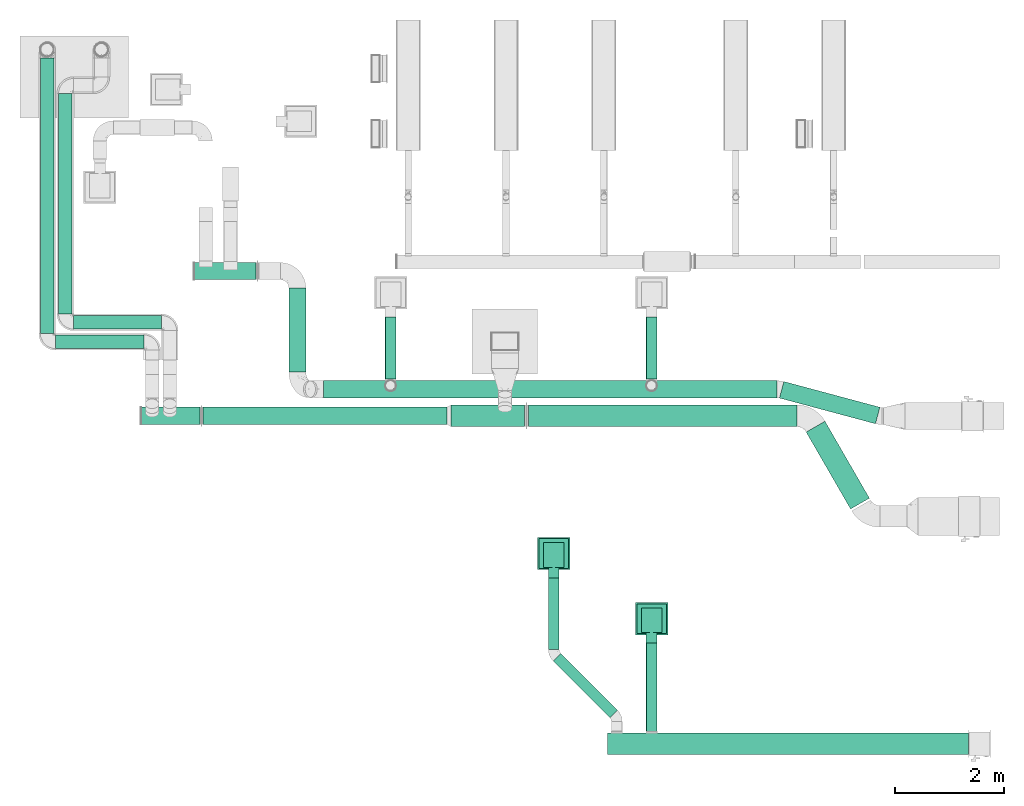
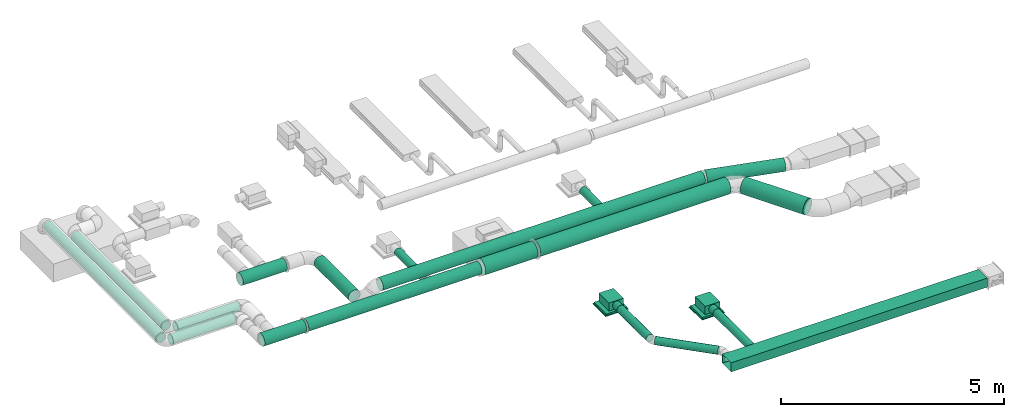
# One storey, part 5 of 36: 19 flow segments, 2 flow terminals.
"""IFC2X3 building model written with IfcOpenShell, lengths in millimetres."""

from ifc_helpers import new_model, entity, si_unit, converted_unit, derived_unit, direction, frame, origin_with_axes, origin_2d_with_axis, place, context, subcontext, project, spatial, hollow_rectangle, hollow_circle, extrude, open_shell, surface_model, source, transform, mapped, type_object, element, save


model = new_model("IFC2X3")

# Units and contexts
model_context = context("Model", 3, precision=0.01, world=frame((0.0, 4.29681676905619e-09, 0.0)), true_north=direction((4.01073788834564e-13, 1.0)))
plan_context = context("Plan", 3, precision=0.01, world=frame((0.0, 4.29681676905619e-09, 0.0)), true_north=direction((4.01073788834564e-13, 1.0)))
body_context = subcontext(model_context, "Body", "Model", "MODEL_VIEW")
ifc_project = project(units=[converted_unit("PLANEANGLEUNIT", "DEGREE", entity("IfcPositiveLengthMeasure", 0.0174532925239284), si_unit("PLANEANGLEUNIT", "RADIAN"), dimensions=[0, 0, 0, 0, 0, 0, 0]), si_unit("AREAUNIT", "SQUARE_METRE"), si_unit("LENGTHUNIT", "METRE", prefix="MILLI"), si_unit("MASSUNIT", "GRAM", prefix="KILO"), si_unit("POWERUNIT", "WATT"), si_unit("PRESSUREUNIT", "PASCAL"), si_unit("FORCEUNIT", "NEWTON", prefix="KILO"), si_unit("ELECTRICCURRENTUNIT", "AMPERE"), si_unit("THERMODYNAMICTEMPERATUREUNIT", "DEGREE_CELSIUS"), si_unit("TIMEUNIT", "SECOND"), si_unit("VOLUMEUNIT", "CUBIC_METRE"), derived_unit("LINEARVELOCITYUNIT", [(si_unit("LENGTHUNIT", "METRE"), 1), (si_unit("TIMEUNIT", "SECOND"), -1)]), derived_unit("VOLUMETRICFLOWRATEUNIT", [(si_unit("VOLUMEUNIT", "CUBIC_METRE"), 1), (si_unit("TIMEUNIT", "SECOND"), -1)]), derived_unit("THERMALTRANSMITTANCEUNIT", [(si_unit("POWERUNIT", "WATT"), 1), (si_unit("THERMODYNAMICTEMPERATUREUNIT", "KELVIN"), -1), (si_unit("AREAUNIT", "SQUARE_METRE"), -1)])], contexts=[model_context, plan_context])

# Site, building, storey
site_placement = place(None, frame((0.0, -4.29681676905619e-09, 0.0), z_axis=(0.0, 0.0, 1.0), x_axis=(1.0, 0.0, 0.0)))
site = spatial("IfcSite", under=ifc_project, at=site_placement, CompositionType="ELEMENT")
building_placement = place(site_placement, frame((0.0, 4.29681676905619e-09, 0.0), z_axis=(0.0, 0.0, 1.0), x_axis=(1.0, 0.0, 0.0)))
building = spatial("IfcBuilding", under=site, at=building_placement, Name="mc-building", CompositionType="ELEMENT")
storey_placement = place(building_placement, frame((0.0, 0.0, 204000.0), z_axis=(0.0, 0.0, 1.0), x_axis=(1.0, 0.0, 0.0)))
storey = spatial("IfcBuildingStorey", under=building, at=storey_placement, Name="Nivå D", CompositionType="ELEMENT", Elevation=204000.0)

# Flow segments
duct_segment_type_1 = type_object("IfcDuctSegmentType", Name="KK002T - Rektangulære, Forsinket stål", PredefinedType="RIGIDSEGMENT")
shared_shape_1 = source(origin_with_axes(), body_context, "Body", "SweptSolid", [
    extrude(hollow_rectangle(XDim=400.0, YDim=250.0, WallThickness=2.0, at=origin_2d_with_axis()), frame((0.0, 0.0, 0.0), z_axis=(1.0, 0.0, 0.0), x_axis=(0.0, 1.0, 0.0)), (0.0, 0.0, 1.0), 6645.0),
])
flow_segment_1_placement = place(storey_placement, frame((531529.91713, 407700.00468, 2890.82430000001), z_axis=(0.0, 0.0, 1.0), x_axis=(-1.0, 0.0, 0.0)))
element("IfcFlowSegment", 1, at=flow_segment_1_placement, inside=storey, type_object=duct_segment_type_1, Name="KK002T - Rektangulære, Forsinket stål", context=body_context, shape_type="MappedRepresentation", body=[
    mapped(shared_shape_1, transform((0.0, 0.0, 0.0), scale=1.0)),
])
duct_segment_type_2 = type_object("IfcDuctSegmentType", Name="KK001T - Spiro kanaler, Forsinket stål", PredefinedType="RIGIDSEGMENT")
shared_shape_2 = source(origin_with_axes(), body_context, "Body", "SweptSolid", [
    extrude(hollow_circle(Radius=100.0, WallThickness=2.0, at=origin_2d_with_axis()), frame((0.0, 0.0, 0.0), z_axis=(1.0, 0.0, 0.0), x_axis=(0.0, 1.0, 0.0)), (0.0, 0.0, 1.0), 1625.3),
])
flow_segment_2_placement = place(storey_placement, frame((525696.54715, 409550.35076, 2868.32430000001), z_axis=(0.0, 0.0, 1.0), x_axis=(0.0, -1.0, 0.0)))
element("IfcFlowSegment", 2, at=flow_segment_2_placement, inside=storey, type_object=duct_segment_type_2, Name="KK001T - Spiro kanaler, Forsinket stål", context=body_context, shape_type="MappedRepresentation", body=[
    mapped(shared_shape_2, transform((0.0, 0.0, 0.0), scale=1.0)),
])
shared_shape_3 = source(origin_with_axes(), body_context, "Body", "SweptSolid", [
    extrude(hollow_circle(Radius=100.0, WallThickness=2.0, at=origin_2d_with_axis()), frame((0.0, 0.0, 0.0), z_axis=(1.0, 0.0, 0.0), x_axis=(0.0, 1.0, 0.0)), (0.0, 0.0, 1.0), 1317.2),
])
flow_segment_3_placement = place(storey_placement, frame((523896.54715, 410750.35076, 2868.32430000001), z_axis=(0.0, 0.0, 1.0), x_axis=(0.0, -1.0, 0.0)))
element("IfcFlowSegment", 3, at=flow_segment_3_placement, inside=storey, type_object=duct_segment_type_2, Name="KK001T - Spiro kanaler, Forsinket stål", context=body_context, shape_type="MappedRepresentation", body=[
    mapped(shared_shape_3, transform((0.0, 0.0, 0.0), scale=1.0)),
])
shared_shape_4 = source(origin_with_axes(), body_context, "Body", "SweptSolid", [
    extrude(hollow_circle(Radius=100.0, WallThickness=2.0, at=origin_2d_with_axis()), frame((0.0, 0.0, 0.0), z_axis=(1.0, 0.0, 0.0), x_axis=(0.0, 1.0, 0.0)), (0.0, 0.0, 1.0), 1475.7),
])
flow_segment_4_placement = place(storey_placement, frame((523955.1258, 409291.77211, 2868.32430000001), z_axis=(0.0, 0.0, 1.0), x_axis=(0.707106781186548, -0.707106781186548, 0.0)))
element("IfcFlowSegment", 4, at=flow_segment_4_placement, inside=storey, type_object=duct_segment_type_2, Name="KK001T - Spiro kanaler, Forsinket stål", context=body_context, shape_type="MappedRepresentation", body=[
    mapped(shared_shape_4, transform((0.0, 0.0, 0.0), scale=1.0)),
])
shared_shape_5 = source(origin_with_axes(), body_context, "Body", "SweptSolid", [
    extrude(hollow_circle(Radius=157.5, WallThickness=2.0, at=origin_2d_with_axis()), frame((0.0, 0.0, 0.0), z_axis=(1.0, 0.0, 0.0), x_axis=(0.0, 1.0, 0.0)), (0.0, 0.0, 1.0), 8350.8),
])
flow_segment_5_placement = place(storey_placement, frame((528007.74637, 414221.8494, 2930.0), z_axis=(0.0, 0.0, 1.0), x_axis=(-1.0, 0.0, 0.0)))
element("IfcFlowSegment", 5, at=flow_segment_5_placement, inside=storey, type_object=duct_segment_type_2, Name="KK001T - Spiro kanaler, Forsinket stål", context=body_context, shape_type="MappedRepresentation", body=[
    mapped(shared_shape_5, transform((0.0, 0.0, 0.0), scale=1.0)),
])
shared_shape_6 = source(origin_with_axes(), body_context, "Body", "SweptSolid", [
    extrude(hollow_circle(Radius=200.0, WallThickness=2.0, at=origin_2d_with_axis()), frame((0.0, 0.0, 0.0), z_axis=(1.0, 0.0, 0.0), x_axis=(0.0, 1.0, 0.0)), (0.0, 0.0, 1.0), 4936.7),
])
flow_segment_6_placement = place(storey_placement, frame((523430.46426, 413732.76875, 2877.5), z_axis=(0.0, 0.0, 1.0), x_axis=(1.0, 0.0, 0.0)))
element("IfcFlowSegment", 6, at=flow_segment_6_placement, inside=storey, type_object=duct_segment_type_2, Name="KK001T - Spiro kanaler, Forsinket stål", context=body_context, shape_type="MappedRepresentation", body=[
    mapped(shared_shape_6, transform((0.0, 0.0, 0.0), scale=1.0)),
])
shared_shape_7 = source(origin_with_axes(), body_context, "Body", "SweptSolid", [
    extrude(hollow_circle(Radius=157.5, WallThickness=2.0, at=origin_2d_with_axis()), frame((0.0, 0.0, 0.0), z_axis=(1.0, 0.0, 0.0), x_axis=(0.0, 1.0, 0.0)), (0.0, 0.0, 1.0), 1829.0),
])
flow_segment_7_placement = place(storey_placement, frame((528089.27437, 414211.11604, 2930.0), z_axis=(0.0, 0.0, 1.0), x_axis=(0.965925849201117, -0.258818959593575, 0.0)))
element("IfcFlowSegment", 7, at=flow_segment_7_placement, inside=storey, type_object=duct_segment_type_2, Name="KK001T - Spiro kanaler, Forsinket stål", context=body_context, shape_type="MappedRepresentation", body=[
    mapped(shared_shape_7, transform((0.0, 0.0, 0.0), scale=1.0)),
])
shared_shape_8 = source(origin_with_axes(), body_context, "Body", "SweptSolid", [
    extrude(hollow_circle(Radius=100.0, WallThickness=2.0, at=origin_2d_with_axis()), frame((0.0, 0.0, 0.0), z_axis=(1.0, 0.0, 0.0), x_axis=(0.0, 1.0, 0.0)), (0.0, 0.0, 1.0), 1143.5),
])
for number, where, z_axis, x_axis in (
    (8, (520896.54715, 415550.35076, 2580.0), (0.0, 0.0, 1.0), (0.0, -1.0, 0.0)),
    (9, (525696.54715, 415550.35076, 2580.0), (0.0, 0.0, 1.0), (0.0, -1.0, 0.0)),
):
    element("IfcFlowSegment", number, at=place(storey_placement, frame(where, z_axis=z_axis, x_axis=x_axis)), inside=storey, type_object=duct_segment_type_2, Name="KK001T - Spiro kanaler, Forsinket stål", context=body_context, shape_type="MappedRepresentation", body=[
        mapped(shared_shape_8, transform((0.0, 0.0, 0.0), scale=1.0)),
    ])
shared_shape_9 = source(origin_with_axes(), body_context, "Body", "SweptSolid", [
    extrude(hollow_circle(Radius=200.0, WallThickness=2.0, at=origin_2d_with_axis()), frame((0.0, 0.0, 0.0), z_axis=(1.0, 0.0, 0.0), x_axis=(0.0, 1.0, 0.0)), (0.0, 0.0, 1.0), 1634.3),
])
flow_segment_8_placement = place(storey_placement, frame((529530.73245, 412117.40977, 2877.5), z_axis=(0.0, 0.0, 1.0), x_axis=(-0.500000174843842, 0.866025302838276, 0.0)))
element("IfcFlowSegment", 10, at=flow_segment_8_placement, inside=storey, type_object=duct_segment_type_2, Name="KK001T - Spiro kanaler, Forsinket stål", context=body_context, shape_type="MappedRepresentation", body=[
    mapped(shared_shape_9, transform((0.0, 0.0, 0.0), scale=1.0)),
])
shared_shape_10 = source(origin_with_axes(), body_context, "Body", "SweptSolid", [
    extrude(hollow_circle(Radius=157.5, WallThickness=2.0, at=origin_2d_with_axis()), frame((0.0, 0.0, 0.0), z_axis=(1.0, 0.0, 0.0), x_axis=(0.0, 1.0, 0.0)), (0.0, 0.0, 1.0), 1542.8),
])
flow_segment_9_placement = place(storey_placement, frame((519180.55848, 416079.68824, 2584.12929000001), z_axis=(0.0, 0.0, 1.0), x_axis=(0.0, -1.0, 0.0)))
element("IfcFlowSegment", 11, at=flow_segment_9_placement, inside=storey, type_object=duct_segment_type_2, Name="KK001T - Spiro kanaler, Forsinket stål", context=body_context, shape_type="MappedRepresentation", body=[
    mapped(shared_shape_10, transform((0.0, 0.0, 0.0), scale=1.0)),
])
shared_shape_11 = source(origin_with_axes(), body_context, "Body", "SweptSolid", [
    extrude(hollow_circle(Radius=157.5, WallThickness=2.0, at=origin_2d_with_axis()), frame((0.0, 0.0, 0.0), z_axis=(1.0, 0.0, 0.0), x_axis=(0.0, 1.0, 0.0)), (0.0, 0.0, 1.0), 1141.9),
])
flow_segment_10_placement = place(storey_placement, frame((518422.5, 416394.68824, 2584.12929000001), z_axis=(0.0, 0.0, 1.0), x_axis=(-1.0, 0.0, 0.0)))
element("IfcFlowSegment", 12, at=flow_segment_10_placement, inside=storey, type_object=duct_segment_type_2, Name="KK001T - Spiro kanaler, Forsinket stål", context=body_context, shape_type="MappedRepresentation", body=[
    mapped(shared_shape_11, transform((0.0, 0.0, 0.0), scale=1.0)),
])
duct_segment_type_3 = type_object("IfcDuctSegmentType", Name="KK002T - Spiro kanaler, Forsinket stål, korte bend", PredefinedType="RIGIDSEGMENT")
shared_shape_12 = source(origin_with_axes(), body_context, "Body", "SweptSolid", [
    extrude(hollow_circle(Radius=125.0, WallThickness=2.0, at=origin_2d_with_axis()), frame((0.0, 0.0, 0.0), z_axis=(1.0, 0.0, 0.0), x_axis=(0.0, 1.0, 0.0)), (0.0, 0.0, 1.0), 1630.2),
])
flow_segment_11_placement = place(storey_placement, frame((516357.72088, 415095.0, 2614.0), z_axis=(0.0, 0.0, 1.0), x_axis=(-1.0, 0.0, 0.0)))
element("IfcFlowSegment", 13, at=flow_segment_11_placement, inside=storey, type_object=duct_segment_type_3, Name="KK002T - Spiro kanaler, Forsinket stål, korte bend", context=body_context, shape_type="MappedRepresentation", body=[
    mapped(shared_shape_12, transform((0.0, 0.0, 0.0), scale=1.0)),
])
shared_shape_13 = source(origin_with_axes(), body_context, "Body", "SweptSolid", [
    extrude(hollow_circle(Radius=125.0, WallThickness=2.0, at=origin_2d_with_axis()), frame((0.0, 0.0, 0.0), z_axis=(1.0, 0.0, 0.0), x_axis=(0.0, 1.0, 0.0)), (0.0, 0.0, 1.0), 1620.0),
])
flow_segment_12_placement = place(storey_placement, frame((516682.18938, 415452.77189, 2614.0), z_axis=(0.0, 0.0, 1.0), x_axis=(-1.0, 0.0, 0.0)))
element("IfcFlowSegment", 14, at=flow_segment_12_placement, inside=storey, type_object=duct_segment_type_3, Name="KK002T - Spiro kanaler, Forsinket stål, korte bend", context=body_context, shape_type="MappedRepresentation", body=[
    mapped(shared_shape_13, transform((0.0, 0.0, 0.0), scale=1.0)),
])
shared_shape_14 = source(origin_with_axes(), body_context, "Body", "SweptSolid", [
    extrude(hollow_circle(Radius=125.0, WallThickness=2.0, at=origin_2d_with_axis()), frame((0.0, 0.0, 0.0), z_axis=(1.0, 0.0, 0.0), x_axis=(0.0, 1.0, 0.0)), (0.0, 0.0, 1.0), 4060.0),
])
flow_segment_13_placement = place(storey_placement, frame((514912.18938, 415602.77189, 2614.0), z_axis=(0.0, 0.0, 1.0), x_axis=(0.0, 1.0, 0.0)))
element("IfcFlowSegment", 15, at=flow_segment_13_placement, inside=storey, type_object=duct_segment_type_3, Name="KK002T - Spiro kanaler, Forsinket stål, korte bend", context=body_context, shape_type="MappedRepresentation", body=[
    mapped(shared_shape_14, transform((0.0, 0.0, 0.0), scale=1.0)),
])
shared_shape_15 = source(origin_with_axes(), body_context, "Body", "SweptSolid", [
    extrude(hollow_circle(Radius=125.0, WallThickness=2.0, at=origin_2d_with_axis()), frame((0.0, 0.0, 0.0), z_axis=(1.0, 0.0, 0.0), x_axis=(0.0, 1.0, 0.0)), (0.0, 0.0, 1.0), 5070.2),
])
flow_segment_14_placement = place(storey_placement, frame((514577.5, 420315.19145, 2614.0), z_axis=(0.0, 0.0, 1.0), x_axis=(0.0, -1.0, 0.0)))
element("IfcFlowSegment", 16, at=flow_segment_14_placement, inside=storey, type_object=duct_segment_type_3, Name="KK002T - Spiro kanaler, Forsinket stål, korte bend", context=body_context, shape_type="MappedRepresentation", body=[
    mapped(shared_shape_15, transform((0.0, 0.0, 0.0), scale=1.0)),
])
shared_shape_16 = source(origin_with_axes(), body_context, "Body", "SweptSolid", [
    extrude(hollow_circle(Radius=157.5, WallThickness=2.0, at=origin_2d_with_axis()), frame((0.0, 0.0, 0.0), z_axis=(1.0, 0.0, 0.0), x_axis=(0.0, 1.0, 0.0)), (0.0, 0.0, 1.0), 1083.2),
])
flow_segment_15_placement = place(storey_placement, frame((517387.96426, 413732.76875, 2877.5), z_axis=(0.0, 0.0, 1.0), x_axis=(-1.0, 0.0, 0.0)))
element("IfcFlowSegment", 17, at=flow_segment_15_placement, inside=storey, type_object=duct_segment_type_3, Name="KK002T - Spiro kanaler, Forsinket stål, korte bend", context=body_context, shape_type="MappedRepresentation", body=[
    mapped(shared_shape_16, transform((0.0, 0.0, 0.0), scale=1.0)),
])
shared_shape_17 = source(origin_with_axes(), body_context, "Body", "SweptSolid", [
    extrude(hollow_circle(Radius=157.5, WallThickness=2.0, at=origin_2d_with_axis()), frame((0.0, 0.0, 0.0), z_axis=(1.0, 0.0, 0.0), x_axis=(0.0, 1.0, 0.0)), (0.0, 0.0, 1.0), 4488.2),
])
flow_segment_16_placement = place(storey_placement, frame((521931.12399, 413732.76875, 2877.5), z_axis=(0.0, 0.0, 1.0), x_axis=(-1.0, 0.0, 0.0)))
element("IfcFlowSegment", 18, at=flow_segment_16_placement, inside=storey, type_object=duct_segment_type_3, Name="KK002T - Spiro kanaler, Forsinket stål, korte bend", context=body_context, shape_type="MappedRepresentation", body=[
    mapped(shared_shape_17, transform((0.0, 0.0, 0.0), scale=1.0)),
])
shared_shape_18 = source(origin_with_axes(), body_context, "Body", "SweptSolid", [
    extrude(hollow_circle(Radius=200.0, WallThickness=2.0, at=origin_2d_with_axis()), frame((0.0, 0.0, 0.0), z_axis=(1.0, 0.0, 0.0), x_axis=(0.0, 1.0, 0.0)), (0.0, 0.0, 1.0), 1355.7),
])
flow_segment_17_placement = place(storey_placement, frame((523360.46426, 413732.76875, 2877.5), z_axis=(0.0, 0.0, 1.0), x_axis=(-1.0, 0.0, 0.0)))
element("IfcFlowSegment", 19, at=flow_segment_17_placement, inside=storey, type_object=duct_segment_type_3, Name="KK002T - Spiro kanaler, Forsinket stål, korte bend", context=body_context, shape_type="MappedRepresentation", body=[
    mapped(shared_shape_18, transform((0.0, 0.0, 0.0), scale=1.0)),
])

# Flow terminals
air_terminal_type = type_object("IfcAirTerminalType", Name="Orion-LOV-TA-250+Luna-200-250", PredefinedType="NOTDEFINED")
shared_shape_19 = source(origin_with_axes(), body_context, "Body", "SurfaceModel", [
    surface_model("IfcShellBasedSurfaceModel", [(-253.99999, 189.99999, 309.0), (-253.99999, -189.99999, 309.0), (198.0, -189.99999, 309.0), (198.0, 189.99999, 309.0), (198.0, 189.99999, 87.0), (198.0, -189.99999, 87.0), (-253.99999, -189.99999, 87.0), (-253.99999, 189.99999, 87.0), (-272.49999, 272.49999, 44.0), (-272.49999, -272.49999, 44.0), (272.49999, -272.49999, 44.0), (272.49999, 272.49999, 44.0), (272.49999, 272.49999, 0.0), (272.49999, -272.49999, 0.0), (-272.49999, -272.49999, 0.0), (-272.49999, 272.49999, 0.0), (-297.49999, 297.49999, 0.0), (-297.49999, -297.49999, 0.0), (297.49999, -297.49999, 0.0), (297.49999, 297.49999, 0.0), (297.49999, 297.49999, -6.0), (297.49999, -297.49999, -6.0), (-297.49999, -297.49999, -6.0), (-297.49999, 297.49999, -6.0), (-253.99999, 50.0, 111.39746), (-253.99999, 70.71068, 127.28932), (-253.99999, 49.9, 111.57066), (-253.99999, 25.83014, 101.6006), (-253.99999, 0.0, 98.2), (-253.99999, 25.8819, 101.40742), (-253.99999, 0.0, 98.0), (-253.99999, 70.56926, 127.43074), (-253.99999, 96.59259, 172.11809), (-253.99999, 99.8, 198.0), (-253.99999, 96.39939, 172.16985), (-253.99999, 100.0, 198.0), (-253.99999, 86.60254, 148.0), (-253.99999, 86.42934, 148.1), (-253.99999, -25.83014, 101.6006), (-253.99999, -25.8819, 101.40742), (-253.99999, -49.9, 111.57066), (-253.99999, -70.71068, 127.28932), (-253.99999, -50.0, 111.39746), (-253.99999, -70.56926, 127.43074), (-253.99999, -86.42934, 148.1), (-253.99999, -86.60254, 148.0), (-253.99999, -96.39939, 172.16985), (-253.99999, -96.59259, 172.11809), (-253.99999, -99.8, 198.0), (-253.99999, -100.0, 198.0), (-253.99999, 96.59259, 223.8819), (-253.99999, 96.39939, 223.83014), (-253.99999, 86.42934, 247.9), (-253.99999, 86.60254, 248.0), (-253.99999, 70.56926, 268.56925), (-253.99999, 70.71068, 268.71067), (-253.99999, 50.0, 284.60254), (-253.99999, 49.9, 284.42933), (-253.99999, 25.83014, 294.3994), (-253.99999, 25.8819, 294.59257), (-253.99999, 0.0, 297.79999), (-253.99999, 0.0, 298.0), (-253.99999, -86.60254, 248.0), (-253.99999, -86.42934, 247.9), (-253.99999, -70.71068, 268.71067), (-253.99999, -70.56926, 268.56925), (-253.99999, -96.59259, 223.8819), (-253.99999, -96.39939, 223.83014), (-253.99999, -25.83014, 294.3994), (-253.99999, -25.8819, 294.59257), (-253.99999, -49.9, 284.42933), (-253.99999, -50.0, 284.60254), (-448.99999, 50.0, 284.60254), (-448.99999, 70.71068, 268.71067), (-448.99999, 49.9, 284.42933), (-448.99999, 25.83014, 294.3994), (-448.99999, 0.0, 297.79999), (-448.99999, 25.8819, 294.59257), (-448.99999, 0.0, 298.0), (-448.99999, 70.56926, 268.56925), (-448.99999, 96.59259, 223.8819), (-448.99999, 99.8, 198.0), (-448.99999, 96.39939, 223.83014), (-448.99999, 100.0, 198.0), (-448.99999, 86.60254, 248.0), (-448.99999, 86.42934, 247.9), (-448.99999, -25.83014, 294.3994), (-448.99999, -25.8819, 294.59257), (-448.99999, -49.9, 284.42933), (-448.99999, -70.71068, 268.71067), (-448.99999, -50.0, 284.60254), (-448.99999, -70.56926, 268.56925), (-448.99999, -86.42934, 247.9), (-448.99999, -86.60254, 248.0), (-448.99999, -96.39939, 223.83014), (-448.99999, -96.59259, 223.8819), (-448.99999, -99.8, 198.0), (-448.99999, -100.0, 198.0), (-448.99999, 96.59259, 172.11809), (-448.99999, 96.39939, 172.16985), (-448.99999, 86.42934, 148.1), (-448.99999, 86.60254, 148.0), (-448.99999, 70.56926, 127.43074), (-448.99999, 70.71068, 127.28932), (-448.99999, 50.0, 111.39746), (-448.99999, 49.9, 111.57066), (-448.99999, 25.83014, 101.6006), (-448.99999, 25.8819, 101.40742), (-448.99999, 0.0, 98.2), (-448.99999, 0.0, 98.0), (-448.99999, -86.60254, 148.0), (-448.99999, -86.42934, 148.1), (-448.99999, -70.71068, 127.28932), (-448.99999, -70.56926, 127.43074), (-448.99999, -96.59259, 172.11809), (-448.99999, -96.39939, 172.16985), (-448.99999, -25.83014, 101.6006), (-448.99999, -25.8819, 101.40742), (-448.99999, -49.9, 111.57066), (-448.99999, -50.0, 111.39746), (63.0, -109.1192, 87.0), (89.09545, -89.09545, 87.0), (62.9, -108.94599, 87.0), (32.55944, -121.51347, 87.0), (0.0, -125.8, 87.0), (32.6112, -121.70665, 87.0), (0.0, -126.0, 87.0), (88.95404, -88.95404, 87.0), (121.70665, -32.6112, 87.0), (125.8, 0.0, 87.0), (121.51347, -32.55944, 87.0), (126.0, 0.0, 87.0), (109.1192, -63.0, 87.0), (108.94599, -62.9, 87.0), (-32.55944, -121.51347, 87.0), (-32.6112, -121.70665, 87.0), (-62.9, -108.94599, 87.0), (-89.09545, -89.09545, 87.0), (-63.0, -109.1192, 87.0), (-88.95404, -88.95404, 87.0), (-108.94599, -62.9, 87.0), (-109.1192, -63.0, 87.0), (-121.51347, -32.55944, 87.0), (-121.70665, -32.6112, 87.0), (-125.8, 0.0, 87.0), (-126.0, 0.0, 87.0), (121.70665, 32.6112, 87.0), (121.51347, 32.55944, 87.0), (108.94599, 62.9, 87.0), (109.1192, 63.0, 87.0), (88.95404, 88.95404, 87.0), (89.09545, 89.09545, 87.0), (63.0, 109.1192, 87.0), (62.9, 108.94599, 87.0), (32.55944, 121.51347, 87.0), (32.6112, 121.70665, 87.0), (0.0, 125.8, 87.0), (0.0, 126.0, 87.0), (-109.1192, 63.0, 87.0), (-108.94599, 62.9, 87.0), (-89.09545, 89.09545, 87.0), (-88.95404, 88.95404, 87.0), (-121.70665, 32.6112, 87.0), (-121.51347, 32.55944, 87.0), (-32.55944, 121.51347, 87.0), (-32.6112, 121.70665, 87.0), (-62.9, 108.94599, 87.0), (-63.0, 109.1192, 87.0), (63.0, 109.1192, 44.0), (89.09545, 89.09545, 44.0), (62.9, 108.94599, 44.0), (32.55944, 121.51347, 44.0), (0.0, 125.8, 44.0), (32.6112, 121.70665, 44.0), (0.0, 126.0, 44.0), (88.95404, 88.95404, 44.0), (121.70665, 32.6112, 44.0), (125.8, 0.0, 44.0), (121.51347, 32.55944, 44.0), (126.0, 0.0, 44.0), (109.1192, 63.0, 44.0), (108.94599, 62.9, 44.0), (-32.55944, 121.51347, 44.0), (-32.6112, 121.70665, 44.0), (-62.9, 108.94599, 44.0), (-89.09545, 89.09545, 44.0), (-63.0, 109.1192, 44.0), (-88.95404, 88.95404, 44.0), (-108.94599, 62.9, 44.0), (-109.1192, 63.0, 44.0), (-121.51347, 32.55944, 44.0), (-121.70665, 32.6112, 44.0), (-125.8, 0.0, 44.0), (-126.0, 0.0, 44.0), (121.70665, -32.6112, 44.0), (121.51347, -32.55944, 44.0), (108.94599, -62.9, 44.0), (109.1192, -63.0, 44.0), (88.95404, -88.95404, 44.0), (89.09545, -89.09545, 44.0), (63.0, -109.1192, 44.0), (62.9, -108.94599, 44.0), (32.55944, -121.51347, 44.0), (32.6112, -121.70665, 44.0), (0.0, -125.8, 44.0), (0.0, -126.0, 44.0), (-109.1192, -63.0, 44.0), (-108.94599, -62.9, 44.0), (-89.09545, -89.09545, 44.0), (-88.95404, -88.95404, 44.0), (-121.70665, -32.6112, 44.0), (-121.51347, -32.55944, 44.0), (-32.55944, -121.51347, 44.0), (-32.6112, -121.70665, 44.0), (-62.9, -108.94599, 44.0), (-63.0, -109.1192, 44.0)], [open_shell([[[0, 1, 2]], [[2, 3, 0]], [[4, 5, 6]], [[6, 7, 4]], [[2, 1, 5]], [[6, 5, 1]], [[3, 2, 4]], [[5, 4, 2]], [[0, 3, 7]], [[4, 7, 3]], [[1, 0, 6]], [[7, 6, 0]], [[8, 9, 10]], [[10, 11, 8]], [[12, 13, 14]], [[14, 15, 12]], [[10, 9, 13]], [[14, 13, 9]], [[11, 10, 12]], [[13, 12, 10]], [[8, 11, 15]], [[12, 15, 11]], [[9, 8, 14]], [[15, 14, 8]], [[16, 17, 18]], [[18, 19, 16]], [[20, 21, 22]], [[22, 23, 20]], [[18, 17, 21]], [[22, 21, 17]], [[19, 18, 20]], [[21, 20, 18]], [[16, 19, 23]], [[20, 23, 19]], [[17, 16, 22]], [[23, 22, 16]], [[24, 25, 26]], [[24, 26, 27]], [[28, 29, 27]], [[29, 28, 30]], [[27, 29, 24]], [[26, 25, 31]], [[32, 33, 34]], [[33, 32, 35]], [[32, 34, 36]], [[31, 36, 37]], [[36, 31, 25]], [[37, 36, 34]], [[30, 38, 39]], [[39, 38, 40]], [[41, 42, 43]], [[40, 42, 39]], [[40, 43, 42]], [[30, 28, 38]], [[44, 45, 41]], [[45, 44, 46]], [[44, 41, 43]], [[47, 46, 48]], [[46, 47, 45]], [[47, 48, 49]], [[35, 50, 51]], [[51, 50, 52]], [[52, 53, 54]], [[53, 52, 50]], [[54, 53, 55]], [[55, 56, 57]], [[57, 56, 58]], [[58, 59, 60]], [[59, 58, 56]], [[60, 59, 61]], [[57, 54, 55]], [[62, 63, 64]], [[64, 63, 65]], [[63, 62, 66]], [[49, 67, 66]], [[66, 67, 63]], [[49, 48, 67]], [[68, 61, 69]], [[68, 69, 70]], [[65, 71, 64]], [[65, 70, 71]], [[71, 70, 69]], [[60, 61, 68]], [[51, 33, 35]], [[72, 73, 74]], [[72, 74, 75]], [[76, 77, 75]], [[77, 76, 78]], [[75, 77, 72]], [[74, 73, 79]], [[80, 81, 82]], [[81, 80, 83]], [[80, 82, 84]], [[79, 84, 85]], [[84, 79, 73]], [[85, 84, 82]], [[78, 86, 87]], [[87, 86, 88]], [[89, 90, 91]], [[88, 90, 87]], [[88, 91, 90]], [[78, 76, 86]], [[92, 93, 89]], [[93, 92, 94]], [[92, 89, 91]], [[95, 94, 96]], [[94, 95, 93]], [[95, 96, 97]], [[83, 98, 99]], [[99, 98, 100]], [[100, 101, 102]], [[101, 100, 98]], [[102, 101, 103]], [[103, 104, 105]], [[105, 104, 106]], [[106, 107, 108]], [[107, 106, 104]], [[108, 107, 109]], [[105, 102, 103]], [[110, 111, 112]], [[112, 111, 113]], [[111, 110, 114]], [[97, 115, 114]], [[114, 115, 111]], [[97, 96, 115]], [[116, 109, 117]], [[116, 117, 118]], [[113, 119, 112]], [[113, 118, 119]], [[119, 118, 117]], [[108, 109, 116]], [[99, 81, 83]], [[47, 114, 110]], [[112, 45, 110]], [[42, 119, 117]], [[112, 119, 41]], [[39, 117, 109]], [[114, 49, 97]], [[114, 47, 49]], [[110, 45, 47]], [[112, 41, 45]], [[42, 41, 119]], [[117, 39, 42]], [[109, 30, 39]], [[29, 107, 104]], [[103, 24, 104]], [[36, 101, 98]], [[103, 101, 25]], [[32, 98, 83]], [[107, 29, 30]], [[104, 24, 29]], [[103, 25, 24]], [[101, 36, 25]], [[32, 36, 98]], [[83, 35, 32]], [[107, 30, 109]], [[83, 80, 50]], [[56, 72, 77]], [[72, 55, 73]], [[59, 77, 78]], [[83, 50, 35]], [[50, 80, 84]], [[50, 84, 53]], [[53, 84, 55]], [[55, 84, 73]], [[55, 72, 56]], [[77, 59, 56]], [[78, 61, 59]], [[69, 87, 90]], [[89, 71, 90]], [[62, 93, 95]], [[89, 93, 64]], [[66, 95, 97]], [[87, 69, 61]], [[90, 71, 69]], [[89, 64, 71]], [[93, 62, 64]], [[66, 62, 95]], [[97, 49, 66]], [[87, 61, 78]], [[111, 115, 46]], [[111, 44, 113]], [[116, 118, 40]], [[43, 118, 113]], [[108, 116, 38]], [[96, 48, 115]], [[48, 46, 115]], [[46, 44, 111]], [[44, 43, 113]], [[118, 43, 40]], [[40, 38, 116]], [[38, 28, 108]], [[105, 106, 27]], [[105, 26, 102]], [[99, 100, 37]], [[31, 100, 102]], [[81, 99, 34]], [[28, 27, 106]], [[27, 26, 105]], [[26, 31, 102]], [[31, 37, 100]], [[99, 37, 34]], [[34, 33, 81]], [[108, 28, 106]], [[51, 82, 81]], [[75, 74, 57]], [[79, 54, 74]], [[76, 75, 58]], [[33, 51, 81]], [[85, 82, 51]], [[52, 85, 51]], [[54, 85, 52]], [[79, 85, 54]], [[57, 74, 54]], [[57, 58, 75]], [[58, 60, 76]], [[88, 86, 68]], [[88, 70, 91]], [[94, 92, 63]], [[65, 92, 91]], [[96, 94, 67]], [[60, 68, 86]], [[68, 70, 88]], [[70, 65, 91]], [[65, 63, 92]], [[94, 63, 67]], [[67, 48, 96]], [[76, 60, 86]], [[120, 121, 122]], [[120, 122, 123]], [[124, 125, 123]], [[125, 124, 126]], [[123, 125, 120]], [[122, 121, 127]], [[128, 129, 130]], [[129, 128, 131]], [[128, 130, 132]], [[127, 132, 133]], [[132, 127, 121]], [[133, 132, 130]], [[126, 134, 135]], [[135, 134, 136]], [[137, 138, 139]], [[136, 138, 135]], [[136, 139, 138]], [[126, 124, 134]], [[140, 141, 137]], [[141, 140, 142]], [[140, 137, 139]], [[143, 142, 144]], [[142, 143, 141]], [[143, 144, 145]], [[131, 146, 147]], [[147, 146, 148]], [[148, 149, 150]], [[149, 148, 146]], [[150, 149, 151]], [[151, 152, 153]], [[153, 152, 154]], [[154, 155, 156]], [[155, 154, 152]], [[156, 155, 157]], [[153, 150, 151]], [[158, 159, 160]], [[160, 159, 161]], [[159, 158, 162]], [[145, 163, 162]], [[162, 163, 159]], [[145, 144, 163]], [[164, 157, 165]], [[164, 165, 166]], [[161, 167, 160]], [[161, 166, 167]], [[167, 166, 165]], [[156, 157, 164]], [[147, 129, 131]], [[168, 169, 170]], [[168, 170, 171]], [[172, 173, 171]], [[173, 172, 174]], [[171, 173, 168]], [[170, 169, 175]], [[176, 177, 178]], [[177, 176, 179]], [[176, 178, 180]], [[175, 180, 181]], [[180, 175, 169]], [[181, 180, 178]], [[174, 182, 183]], [[183, 182, 184]], [[185, 186, 187]], [[184, 186, 183]], [[184, 187, 186]], [[174, 172, 182]], [[188, 189, 185]], [[189, 188, 190]], [[188, 185, 187]], [[191, 190, 192]], [[190, 191, 189]], [[191, 192, 193]], [[179, 194, 195]], [[195, 194, 196]], [[196, 197, 198]], [[197, 196, 194]], [[198, 197, 199]], [[199, 200, 201]], [[201, 200, 202]], [[202, 203, 204]], [[203, 202, 200]], [[204, 203, 205]], [[201, 198, 199]], [[206, 207, 208]], [[208, 207, 209]], [[207, 206, 210]], [[193, 211, 210]], [[210, 211, 207]], [[193, 192, 211]], [[212, 205, 213]], [[212, 213, 214]], [[209, 215, 208]], [[209, 214, 215]], [[215, 214, 213]], [[204, 205, 212]], [[195, 177, 179]], [[210, 143, 193]], [[206, 141, 210]], [[138, 208, 215]], [[206, 208, 137]], [[135, 215, 213]], [[210, 141, 143]], [[143, 145, 193]], [[135, 138, 215]], [[137, 208, 138]], [[137, 141, 206]], [[126, 135, 213]], [[213, 205, 126]], [[203, 125, 205]], [[200, 120, 203]], [[132, 199, 197]], [[200, 199, 121]], [[128, 197, 194]], [[200, 121, 120]], [[120, 125, 203]], [[131, 128, 194]], [[132, 197, 128]], [[132, 121, 199]], [[179, 131, 194]], [[205, 125, 126]], [[176, 146, 179]], [[180, 149, 176]], [[152, 169, 168]], [[180, 169, 151]], [[155, 168, 173]], [[176, 149, 146]], [[146, 131, 179]], [[155, 152, 168]], [[151, 169, 152]], [[151, 149, 180]], [[157, 155, 173]], [[173, 174, 157]], [[165, 174, 183]], [[186, 167, 183]], [[158, 189, 191]], [[162, 191, 193]], [[186, 160, 167]], [[167, 165, 183]], [[185, 158, 160]], [[185, 189, 158]], [[158, 191, 162]], [[193, 145, 162]], [[185, 160, 186]], [[174, 165, 157]], [[192, 142, 211]], [[211, 140, 207]], [[214, 209, 136]], [[139, 209, 207]], [[212, 214, 134]], [[142, 140, 211]], [[192, 144, 142]], [[214, 136, 134]], [[136, 209, 139]], [[207, 140, 139]], [[212, 134, 124]], [[124, 204, 212]], [[204, 123, 202]], [[202, 122, 201]], [[196, 198, 133]], [[127, 198, 201]], [[195, 196, 130]], [[122, 127, 201]], [[202, 123, 122]], [[195, 130, 129]], [[130, 196, 133]], [[198, 127, 133]], [[195, 129, 177]], [[124, 123, 204]], [[177, 147, 178]], [[178, 148, 181]], [[170, 175, 153]], [[150, 175, 181]], [[171, 170, 154]], [[147, 148, 178]], [[177, 129, 147]], [[170, 153, 154]], [[153, 175, 150]], [[181, 148, 150]], [[171, 154, 156]], [[156, 172, 171]], [[182, 172, 164]], [[182, 166, 184]], [[190, 188, 159]], [[192, 190, 163]], [[166, 161, 184]], [[182, 164, 166]], [[161, 159, 187]], [[159, 188, 187]], [[163, 190, 159]], [[163, 144, 192]], [[184, 161, 187]], [[156, 164, 172]]])]),
])
for number, where, z_axis, x_axis in (
    (20, (525696.54715, 409999.37871, 2671.98783999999), (0.0, 0.0, 1.0), (0.0, 1.0, 0.0)),
    (21, (523896.54715, 411199.37871, 2671.98783999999), (0.0, 0.0, 1.0), (0.0, 1.0, 0.0)),
):
    element("IfcFlowTerminal", number, at=place(storey_placement, frame(where, z_axis=z_axis, x_axis=x_axis)), inside=storey, type_object=air_terminal_type, Name="Orion-LOV-TA-250+Luna-200-250", context=body_context, shape_type="MappedRepresentation", body=[
        mapped(shared_shape_19, transform((0.0, 0.0, 0.0), scale=1.0)),
    ])

save(model, "model.ifc")
